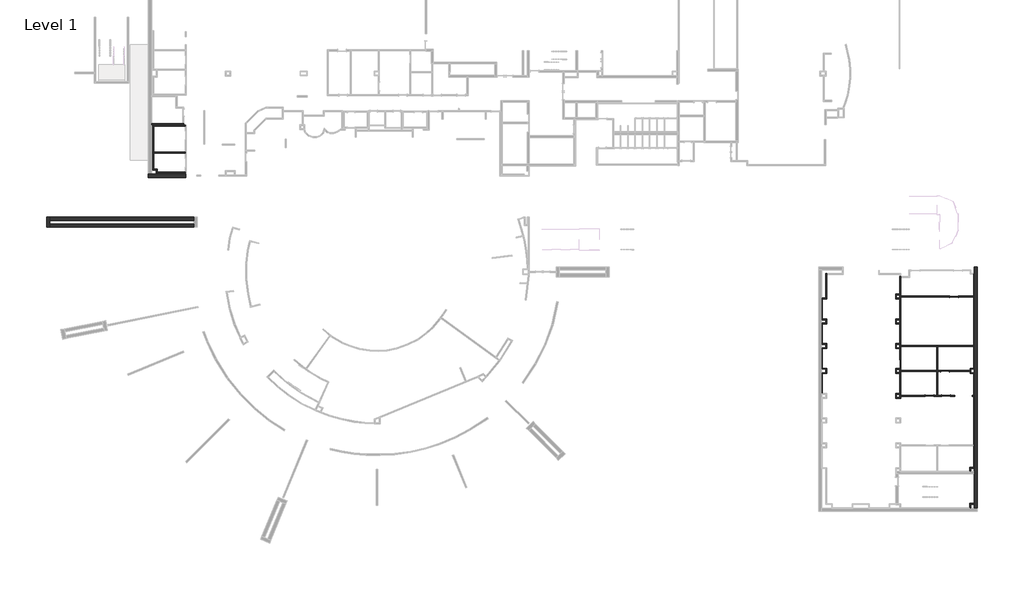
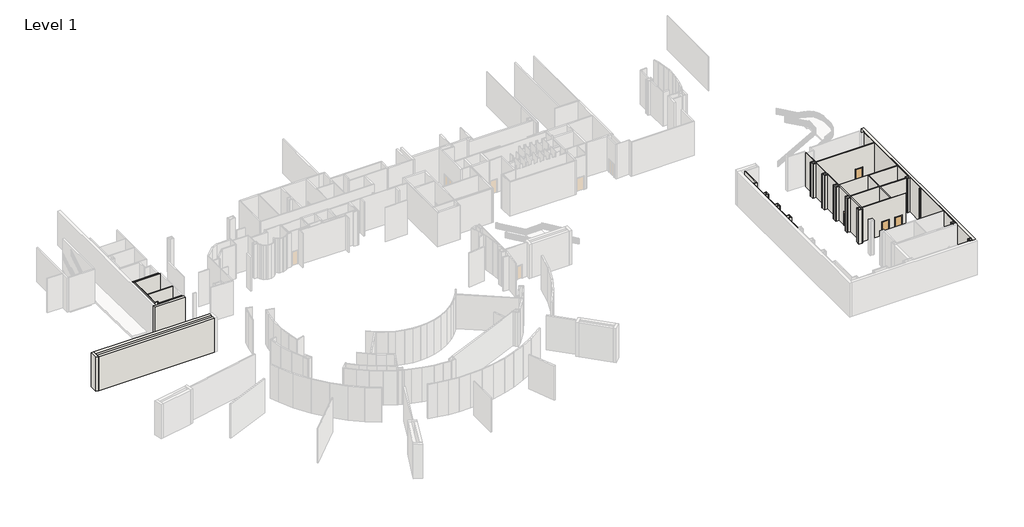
# One storey, part 3 of 10: 60 walls, 5 doors.
"""IFC4 building model written with IfcOpenShell, lengths in millimetres."""

from ifc_helpers import new_model, si_unit, frame, origin, origin_with_axes, place, context, project, spatial, polyline, outline, extrude, faceted_brep, transform, mapped, element, save
from components import door_f5ce0651, door_55d8558a

model = new_model("IFC4")

# Units and contexts
model_context = context("Model", 3, world=origin())
ifc_project = project(units=[si_unit("LENGTHUNIT", "METRE", prefix="MILLI")], contexts=[model_context])

# Site, building, storey
site = spatial("IfcSite", under=ifc_project)
building = spatial("IfcBuilding", under=site)
storey = spatial("IfcBuildingStorey", under=building, Name="Level 1", Elevation=0.0)

# Doors
placement = place(None, origin())
door_shape = door_f5ce0651(model_context)
element("IfcDoor", 1, ObjectType="Single-Flush : 36\" x 84\"", at=placement, inside=storey, context=model_context, shape_type="MappedRepresentation", body=[
    mapped(door_shape, transform((93891.8099216, -11090.5763082, 0.0), x_axis=(-1.0, 0.0, 0.0), y_axis=(0.0, -1.0, 0.0), z_axis=(0.0, 0.0, 1.0))),
])
element("IfcDoor", 2, ObjectType="Single-Flush : 36\" x 84\"", at=placement, inside=storey, context=model_context, shape_type="MappedRepresentation", body=[
    mapped(door_shape, transform((94018.8099216, -14138.5763082, 0.0), x_axis=(-1.0, 0.0, 0.0), y_axis=(0.0, -1.0, 0.0), z_axis=(0.0, 0.0, 1.0))),
])
element("IfcDoor", 3, ObjectType="Single-Flush : 36\" x 84\"", at=placement, inside=storey, context=model_context, shape_type="MappedRepresentation", body=[
    mapped(door_shape, transform((95009.4099216, -1946.5763082, 0.0), x_axis=(1.0, 0.0, 0.0), y_axis=(0.0, 1.0, 0.0), z_axis=(0.0, 0.0, 1.0))),
])
door_2_shape = door_55d8558a(model_context)
element("IfcDoor", 4, ObjectType="Single-Flush : 36\" x 84\"", at=placement, inside=storey, context=model_context, shape_type="MappedRepresentation", body=[
    mapped(door_2_shape, transform((92012.2099216, -14138.5763082, 0.0), x_axis=(1.0, 0.0, 0.0), y_axis=(0.0, 1.0, 0.0), z_axis=(0.0, 0.0, 1.0))),
])
element("IfcDoor", 5, ObjectType="Single-Flush : 36\" x 84\"", at=placement, inside=storey, context=model_context, shape_type="MappedRepresentation", body=[
    mapped(door_2_shape, transform((88405.4099216, -10247.8678081, 0.0), x_axis=(0.0, -1.0, 0.0), y_axis=(1.0, 0.0, 0.0), z_axis=(0.0, 0.0, 1.0))),
])

# Walls
element("IfcWall", 6, ObjectType="N2A/B", at=placement, inside=storey, context=model_context, shape_type="Brep", body=[
    faceted_brep([(93510.8099216, -14076.6638082, 2133.6), (93510.8099216, -14076.6638082, 0.0), (92988.5224216, -14076.6638082, 0.0), (92864.6974216, -14076.6638082, 0.0), (92520.2099216, -14076.6638082, 0.0), (92520.2099216, -14076.6638082, 2133.6), (91504.2099216, -14076.6638082, 2133.6), (91504.2099216, -14076.6638082, 0.0), (88467.3224216, -14076.6638082, 0.0), (88459.3849216, -14076.6638082, 0.0), (88459.3849216, -14076.6638082, 5486.4), (88467.3224216, -14076.6638082, 5486.4), (92864.6974216, -14076.6638082, 5486.4), (92988.5224216, -14076.6638082, 5486.4), (95111.0099216, -14076.6638082, 5486.4), (95111.0099216, -14076.6638082, 0.0), (94526.8099216, -14076.6638082, 0.0), (94526.8099216, -14076.6638082, 2133.6), (92520.2099216, -14200.4888082, 0.0), (93510.8099216, -14200.4888082, 0.0), (93510.8099216, -14200.4888082, 2133.6), (94526.8099216, -14200.4888082, 2133.6), (94526.8099216, -14200.4888082, 0.0), (95111.0099216, -14200.4888082, 0.0), (95111.0099216, -14200.4888082, 5486.4), (88459.3849216, -14200.4888082, 5486.4), (88459.3849216, -14200.4888082, 0.0), (91504.2099216, -14200.4888082, 0.0), (91504.2099216, -14200.4888082, 2133.6), (92520.2099216, -14200.4888082, 2133.6)], [[[0, 1, 2, 3, 4, 5, 6, 7, 8, 9, 10, 11, 12, 13, 14, 15, 16, 17]], [[18, 19, 20, 21, 22, 23, 24, 25, 26, 27, 28, 29]], [[4, 3, 2, 1, 19, 18]], [[27, 26, 9, 8, 7]], [[16, 15, 23, 22]], [[14, 13, 12, 11, 10, 25, 24]], [[15, 14, 24, 23]], [[10, 9, 26, 25]], [[5, 4, 18, 29]], [[6, 5, 29, 28]], [[7, 6, 28, 27]], [[20, 19, 1, 0]], [[21, 20, 0, 17]], [[22, 21, 17, 16]]]),
])
element("IfcWall", 7, ObjectType="N2A/B", at=placement, inside=storey, context=model_context, shape_type="Brep", body=[
    faceted_brep([(88467.3224216, -14076.6638082, 0.0), (88467.3224216, -11152.4888082, 0.0), (88467.3224216, -11028.6638082, 0.0), (88467.3224216, -10755.8678081, 0.0), (88467.3224216, -10755.8678081, 2133.6), (88467.3224216, -9739.8678081, 2133.6), (88467.3224216, -9739.8678081, 0.0), (88467.3224216, -8104.4888082, 0.0), (88467.3224216, -7980.6638082, 0.0), (88467.3224216, -2008.4888082, 0.0), (88467.3224216, -1884.6638082, 0.0), (88467.3224216, 387.0486918, 0.0), (88467.3224216, 494.9986918, 0.0), (88467.3224216, 494.9986918, 5486.4), (88467.3224216, 387.0486918, 5486.4), (88467.3224216, -1884.6638082, 5486.4), (88467.3224216, -2008.4888082, 5486.4), (88467.3224216, -7980.6638082, 5486.4), (88467.3224216, -8104.4888082, 5486.4), (88467.3224216, -11028.6638082, 5486.4), (88467.3224216, -11152.4888082, 5486.4), (88467.3224216, -14076.6638082, 5486.4), (88343.4974216, -10755.8678081, 2133.6), (88343.4974216, -10755.8678081, 0.0), (88343.4974216, -10803.4928081, 0.0), (88343.4974216, -10911.4428081, 0.0), (88343.4974216, -11269.7098081, 0.0), (88343.4974216, -11377.6598081, 0.0), (88343.4974216, -13833.7763082, 0.0), (88343.4974216, -13941.7263082, 0.0), (88343.4974216, -14076.6638082, 0.0), (88343.4974216, -14076.6638082, 5486.4), (88343.4974216, -13941.7263082, 5486.4), (88343.4974216, -13833.7763082, 5486.4), (88343.4974216, -11377.6598081, 5486.4), (88343.4974216, -11269.7098081, 5486.4), (88343.4974216, -10911.4428081, 5486.4), (88343.4974216, -10803.4928081, 5486.4), (88343.4974216, -8347.3763082, 5486.4), (88343.4974216, -8239.4263082, 5486.4), (88343.4974216, -7845.7263082, 5486.4), (88343.4974216, -7737.7763082, 5486.4), (88343.4974216, -5299.3763082, 5486.4), (88343.4974216, -5191.4263082, 5486.4), (88343.4974216, -4797.7263082, 5486.4), (88343.4974216, -4689.7763082, 5486.4), (88343.4974216, -2251.3763082, 5486.4), (88343.4974216, -2143.4263082, 5486.4), (88343.4974216, -1749.7263082, 5486.4), (88343.4974216, -1641.7763082, 5486.4), (88343.4974216, 494.9986918, 5486.4), (88343.4974216, 494.9986918, 0.0), (88343.4974216, -1641.7763082, 0.0), (88343.4974216, -1749.7263082, 0.0), (88343.4974216, -2143.4263082, 0.0), (88343.4974216, -2251.3763082, 0.0), (88343.4974216, -4689.7763082, 0.0), (88343.4974216, -4797.7263082, 0.0), (88343.4974216, -5191.4263082, 0.0), (88343.4974216, -5299.3763082, 0.0), (88343.4974216, -7737.7763082, 0.0), (88343.4974216, -7845.7263082, 0.0), (88343.4974216, -8239.4263082, 0.0), (88343.4974216, -8347.3763082, 0.0), (88343.4974216, -9739.8678081, 0.0), (88343.4974216, -9739.8678081, 2133.6), (88459.3849216, -14076.6638082, 0.0), (88351.4349216, -14076.6638082, 0.0), (88351.4349216, 494.9986918, 0.0), (88459.3849216, 494.9986918, 0.0), (88459.3849216, 494.9986918, 5486.4), (88351.4349216, 494.9986918, 5486.4), (88351.4349216, -14076.6638082, 5486.4), (88459.3849216, -14076.6638082, 5486.4)], [[[0, 1, 2, 3, 4, 5, 6, 7, 8, 9, 10, 11, 12, 13, 14, 15, 16, 17, 18, 19, 20, 21]], [[22, 23, 24, 25, 26, 27, 28, 29, 30, 31, 32, 33, 34, 35, 36, 37, 38, 39, 40, 41, 42, 43, 44, 45, 46, 47, 48, 49, 50, 51, 52, 53, 54, 55, 56, 57, 58, 59, 60, 61, 62, 63, 64, 65]], [[30, 29, 28, 27, 26, 25, 24, 23, 3, 2, 1, 0, 66, 67]], [[64, 63, 62, 61, 60, 59, 58, 57, 56, 55, 54, 53, 52, 51, 68, 69, 12, 11, 10, 9, 8, 7, 6]], [[21, 20, 19, 18, 17, 16, 15, 14, 13, 70, 71, 50, 49, 48, 47, 46, 45, 44, 43, 42, 41, 40, 39, 38, 37, 36, 35, 34, 33, 32, 31, 72, 73]], [[13, 12, 69, 68, 51, 50, 71, 70]], [[0, 21, 73, 72, 31, 30, 67, 66]], [[4, 3, 23, 22]], [[5, 4, 22, 65]], [[6, 5, 65, 64]]]),
])
element("IfcWall", 8, ObjectType="N2A/B", at=placement, inside=storey, context=model_context, shape_type="Brep", body=[
    faceted_brep([(88467.3224216, -8104.4888082, 0.0), (92864.6974216, -8104.4888082, 0.0), (92988.5224216, -8104.4888082, 0.0), (97419.2349216, -8104.4888082, 0.0), (97419.2349216, -8104.4888082, 5486.4), (92988.5224216, -8104.4888082, 5486.4), (92864.6974216, -8104.4888082, 5486.4), (88467.3224216, -8104.4888082, 5486.4), (88467.3224216, -7980.6638082, 0.0), (88467.3224216, -7980.6638082, 5486.4), (97419.2349216, -7980.6638082, 5486.4), (97419.2349216, -7980.6638082, 0.0)], [[[0, 1, 2, 3, 4, 5, 6, 7]], [[8, 9, 10, 11]], [[3, 2, 1, 0, 8, 11]], [[7, 6, 5, 4, 10, 9]], [[0, 7, 9, 8]], [[4, 3, 11, 10]]]),
])
element("IfcWall", 9, ObjectType="N2A/B", at=placement, inside=storey, context=model_context, shape_type="Brep", body=[
    faceted_brep([(92864.6974216, -8104.4888082, 0.0), (92864.6974216, -11028.6638082, 0.0), (92864.6974216, -11152.4888082, 0.0), (92864.6974216, -14076.6638082, 0.0), (92864.6974216, -14076.6638082, 5486.4), (92864.6974216, -11152.4888082, 5486.4), (92864.6974216, -11028.6638082, 5486.4), (92864.6974216, -8104.4888082, 5486.4), (92988.5224216, -8104.4888082, 0.0), (92988.5224216, -8104.4888082, 5486.4), (92988.5224216, -11028.6638082, 5486.4), (92988.5224216, -11152.4888082, 5486.4), (92988.5224216, -14076.6638082, 5486.4), (92988.5224216, -14076.6638082, 0.0), (92988.5224216, -11152.4888082, 0.0), (92988.5224216, -11028.6638082, 0.0)], [[[0, 1, 2, 3, 4, 5, 6, 7]], [[8, 9, 10, 11, 12, 13, 14, 15]], [[3, 2, 1, 0, 8, 15, 14, 13]], [[7, 6, 5, 4, 12, 11, 10, 9]], [[4, 3, 13, 12]], [[0, 7, 9, 8]]]),
])
element("IfcWall", 10, ObjectType="N2A/B", at=placement, inside=storey, context=model_context, shape_type="SweptSolid", body=[
    extrude(outline(polyline([(0.0, 96939.8099216), (5486.4, 96939.8099216), (5486.4, 92988.5224216), (0.0, 92988.5224216), (0.0, 93383.8099216), (2133.6, 93383.8099216), (2133.6, 94399.8099216), (0.0, 94399.8099216), (0.0, 96939.8099216)])), frame((0.0, -11152.4888082, 0.0), z_axis=(0.0, 1.0, 0.0), x_axis=(0.0, 0.0, 1.0)), (0.0, 0.0, 1.0), 123.825),
    extrude(outline(polyline([(88467.3224216, -11152.4888082), (88467.3224216, -11028.6638082), (92864.6974216, -11028.6638082), (92864.6974216, -11152.4888082), (88467.3224216, -11152.4888082)])), origin_with_axes(), (0.0, 0.0, 1.0), 5486.4),
])
element("IfcWall", 11, ObjectType="N2A/B", at=placement, inside=storey, context=model_context, shape_type="SweptSolid", body=[
    extrude(outline(polyline([(2133.6, 95517.4099216), (0.0, 95517.4099216), (0.0, 97419.2349216), (5486.4, 97419.2349216), (5486.4, 88467.3224216), (0.0, 88467.3224216), (0.0, 94501.4099216), (2133.6, 94501.4099216), (2133.6, 95517.4099216)])), frame((0.0, -2008.4888082, 0.0), z_axis=(0.0, 1.0, 0.0), x_axis=(0.0, 0.0, 1.0)), (0.0, 0.0, 1.0), 123.825),
])
element("IfcWall", 12, ObjectType="N3A/B", at=placement, inside=storey, context=model_context, shape_type="Brep", body=[
    faceted_brep([(-3529.8900784, 19177.6074093, 0.0), (445.2100485, 19177.6074093, 0.0), (445.2100485, 19177.6074093, 5486.4), (-3529.8900784, 19177.6074093, 5486.4), (-3529.8900784, 19333.1824093, 0.0), (-3529.8900784, 19333.1824093, 5486.4), (289.6350485, 19333.1824093, 5486.4), (445.2100485, 19333.1824093, 5486.4), (445.2100485, 19333.1824093, 0.0), (289.6350485, 19333.1824093, 0.0)], [[[0, 1, 2, 3]], [[4, 5, 6, 7, 8, 9]], [[1, 0, 4, 9, 8]], [[3, 2, 7, 6, 5]], [[2, 1, 8, 7]], [[0, 3, 5, 4]]]),
])
element("IfcWall", 13, ObjectType="N2A/B", at=placement, inside=storey, context=model_context, shape_type="Brep", body=[
    faceted_brep([(97482.7349216, -14076.6638082, 0.0), (97476.3849216, -14076.6638082, 0.0), (97419.2349216, -14076.6638082, 0.0), (97254.1349216, -14076.6638082, 0.0), (97254.1349216, -14076.6638082, 5486.4), (97419.2349216, -14076.6638082, 5486.4), (97476.3849216, -14076.6638082, 5486.4), (97482.7349216, -14076.6638082, 5486.4), (97482.7349216, -14200.4888082, 0.0), (97482.7349216, -14200.4888082, 5486.4), (97476.3849216, -14200.4888082, 5486.4), (97419.2349216, -14200.4888082, 5486.4), (97254.1349216, -14200.4888082, 5486.4), (97254.1349216, -14200.4888082, 0.0), (97419.2349216, -14200.4888082, 0.0), (97476.3849216, -14200.4888082, 0.0)], [[[0, 1, 2, 3, 4, 5, 6, 7]], [[8, 9, 10, 11, 12, 13, 14, 15]], [[3, 2, 1, 0, 8, 15, 14, 13]], [[4, 3, 13, 12]], [[7, 6, 5, 4, 12, 11, 10, 9]], [[0, 7, 9, 8]]]),
])
element("IfcWall", 14, ObjectType="F1A", at=placement, inside=storey, context=model_context, shape_type="Brep", body=[
    faceted_brep([(97419.2349216, 810.9111918, 0.0), (97419.2349216, -1884.6638082, 0.0), (97419.2349216, -2008.4888082, 0.0), (97419.2349216, -7980.6638082, 0.0), (97419.2349216, -8104.4888082, 0.0), (97419.2349216, -10796.8888082, 0.0), (97419.2349216, -10854.0388082, 0.0), (97419.2349216, -10854.0388082, 5486.4), (97419.2349216, -10796.8888082, 5486.4), (97419.2349216, -8104.4888082, 5486.4), (97419.2349216, -7980.6638082, 5486.4), (97419.2349216, -2008.4888082, 5486.4), (97419.2349216, -1884.6638082, 5486.4), (97419.2349216, 810.9111918, 5486.4), (97476.3849216, 810.9111918, 0.0), (97476.3849216, 810.9111918, 5486.4), (97476.3849216, -10854.0388082, 5486.4), (97476.3849216, -10854.0388082, 0.0)], [[[0, 1, 2, 3, 4, 5, 6, 7, 8, 9, 10, 11, 12, 13]], [[14, 15, 16, 17]], [[6, 5, 4, 3, 2, 1, 0, 14, 17]], [[13, 12, 11, 10, 9, 8, 7, 16, 15]], [[7, 6, 17, 16]], [[0, 13, 15, 14]]]),
])
element("IfcWall", 15, ObjectType="F1A", at=placement, inside=storey, context=model_context, shape_type="Brep", body=[
    faceted_brep([(97419.2349216, -10796.8888082, 0.0), (96985.8474216, -10796.8888082, 0.0), (96985.8474216, -10796.8888082, 5486.4), (97419.2349216, -10796.8888082, 5486.4), (97419.2349216, -10854.0388082, 0.0), (97419.2349216, -10854.0388082, 5486.4), (97042.9974216, -10854.0388082, 5486.4), (96985.8474216, -10854.0388082, 5486.4), (96985.8474216, -10854.0388082, 0.0), (97042.9974216, -10854.0388082, 0.0)], [[[0, 1, 2, 3]], [[4, 5, 6, 7, 8, 9]], [[1, 0, 4, 9, 8]], [[3, 2, 7, 6, 5]], [[2, 1, 8, 7]], [[0, 3, 5, 4]]]),
])
element("IfcWall", 16, ObjectType="F1A", at=placement, inside=storey, context=model_context, shape_type="Brep", body=[
    faceted_brep([(96985.8474216, -10854.0388082, 0.0), (96985.8474216, -11384.2638082, 0.0), (96985.8474216, -11384.2638082, 5486.4), (96985.8474216, -10854.0388082, 5486.4), (97042.9974216, -10854.0388082, 0.0), (97042.9974216, -10854.0388082, 5486.4), (97042.9974216, -11327.1138082, 5486.4), (97042.9974216, -11384.2638082, 5486.4), (97042.9974216, -11384.2638082, 0.0), (97042.9974216, -11327.1138082, 0.0)], [[[0, 1, 2, 3]], [[4, 5, 6, 7, 8, 9]], [[1, 0, 4, 9, 8]], [[3, 2, 7, 6, 5]], [[2, 1, 8, 7]], [[0, 3, 5, 4]]]),
])
element("IfcWall", 17, ObjectType="F1A", at=placement, inside=storey, context=model_context, shape_type="Brep", body=[
    faceted_brep([(97042.9974216, -11384.2638082, 0.0), (97419.2349216, -11384.2638082, 0.0), (97476.3849216, -11384.2638082, 0.0), (97476.3849216, -11384.2638082, 5486.4), (97419.2349216, -11384.2638082, 5486.4), (97042.9974216, -11384.2638082, 5486.4), (97042.9974216, -11327.1138082, 0.0), (97042.9974216, -11327.1138082, 5486.4), (97476.3849216, -11327.1138082, 5486.4), (97476.3849216, -11327.1138082, 0.0)], [[[0, 1, 2, 3, 4, 5]], [[6, 7, 8, 9]], [[2, 1, 0, 6, 9]], [[5, 4, 3, 8, 7]], [[3, 2, 9, 8]], [[0, 5, 7, 6]]]),
])
element("IfcWall", 18, ObjectType="F1A", at=placement, inside=storey, context=model_context, shape_type="SweptSolid", body=[
    extrude(outline(polyline([(97419.2349216, -14076.6638082), (97419.2349216, -11384.2638082), (97476.3849216, -11384.2638082), (97476.3849216, -14076.6638082), (97419.2349216, -14076.6638082)])), origin_with_axes(), (0.0, 0.0, 1.0), 5486.4),
])
element("IfcWall", 19, ObjectType="F1A", at=placement, inside=storey, context=model_context, shape_type="Brep", body=[
    faceted_brep([(97419.2349216, -14200.4888082, 0.0), (97419.2349216, -20172.6638082, 0.0), (97419.2349216, -20296.4888082, 0.0), (97419.2349216, -22963.4888082, 0.0), (97419.2349216, -23071.4388082, 0.0), (97419.2349216, -23071.4388082, 5486.4), (97419.2349216, -22963.4888082, 5486.4), (97419.2349216, -20296.4888082, 5486.4), (97419.2349216, -20172.6638082, 5486.4), (97419.2349216, -14200.4888082, 5486.4), (97476.3849216, -14200.4888082, 0.0), (97476.3849216, -14200.4888082, 5486.4), (97476.3849216, -23071.4388082, 5486.4), (97476.3849216, -23071.4388082, 0.0)], [[[0, 1, 2, 3, 4, 5, 6, 7, 8, 9]], [[10, 11, 12, 13]], [[4, 3, 2, 1, 0, 10, 13]], [[9, 8, 7, 6, 5, 12, 11]], [[5, 4, 13, 12]], [[0, 9, 11, 10]]]),
])
element("IfcWall", 20, ObjectType="F1A", at=placement, inside=storey, context=model_context, shape_type="Brep", body=[
    faceted_brep([(78794.6849216, -11395.3763082, 0.0), (78794.6849216, -13941.7263082, 0.0), (78794.6849216, -13941.7263082, 5486.4), (78794.6849216, -11395.3763082, 5486.4), (78851.8349216, -11395.3763082, 0.0), (78851.8349216, -11395.3763082, 5486.4), (78851.8349216, -13833.7763082, 5486.4), (78851.8349216, -13941.7263082, 5486.4), (78851.8349216, -13941.7263082, 0.0), (78851.8349216, -13833.7763082, 0.0)], [[[0, 1, 2, 3]], [[4, 5, 6, 7, 8, 9]], [[1, 0, 4, 9, 8]], [[3, 2, 7, 6, 5]], [[2, 1, 8, 7]], [[0, 3, 5, 4]]]),
])
element("IfcWall", 21, ObjectType="F1A", at=placement, inside=storey, context=model_context, shape_type="SweptSolid", body=[
    extrude(outline(polyline([(78851.8349216, -8347.3763082), (78851.8349216, -10785.7763082), (78794.6849216, -10785.7763082), (78794.6849216, -8347.3763082), (78851.8349216, -8347.3763082)])), origin_with_axes(), (0.0, 0.0, 1.0), 5486.4),
])
element("IfcWall", 22, ObjectType="F1A", at=placement, inside=storey, context=model_context, shape_type="Brep", body=[
    faceted_brep([(78794.6849216, -5191.4263082, 0.0), (78794.6849216, -7737.7763082, 0.0), (78794.6849216, -7737.7763082, 5486.4), (78794.6849216, -5191.4263082, 5486.4), (78851.8349216, -5191.4263082, 0.0), (78851.8349216, -5191.4263082, 5486.4), (78851.8349216, -5299.3763082, 5486.4), (78851.8349216, -7737.7763082, 5486.4), (78851.8349216, -7737.7763082, 0.0), (78851.8349216, -5299.3763082, 0.0)], [[[0, 1, 2, 3]], [[4, 5, 6, 7, 8, 9]], [[1, 0, 4, 9, 8]], [[3, 2, 7, 6, 5]], [[0, 3, 5, 4]], [[2, 1, 8, 7]]]),
])
element("IfcWall", 23, ObjectType="F1A", at=placement, inside=storey, context=model_context, shape_type="Brep", body=[
    faceted_brep([(78794.6849216, -2143.4263082, 0.0), (78794.6849216, -4797.7263082, 0.0), (78794.6849216, -4797.7263082, 5486.4), (78794.6849216, -2143.4263082, 5486.4), (78851.8349216, -2143.4263082, 0.0), (78851.8349216, -2143.4263082, 5486.4), (78851.8349216, -2251.3763082, 5486.4), (78851.8349216, -4689.7763082, 5486.4), (78851.8349216, -4797.7263082, 5486.4), (78851.8349216, -4797.7263082, 0.0), (78851.8349216, -4689.7763082, 0.0), (78851.8349216, -2251.3763082, 0.0)], [[[0, 1, 2, 3]], [[4, 5, 6, 7, 8, 9, 10, 11]], [[1, 0, 4, 11, 10, 9]], [[3, 2, 8, 7, 6, 5]], [[2, 1, 9, 8]], [[0, 3, 5, 4]]]),
])
element("IfcWall", 24, ObjectType="F1B", at=placement, inside=storey, context=model_context, shape_type="Brep", body=[
    faceted_brep([(78794.6849216, -11395.3763082, 0.0), (78851.8349216, -11395.3763082, 0.0), (79359.8349216, -11395.3763082, 0.0), (79359.8349216, -11395.3763082, 5486.4), (78851.8349216, -11395.3763082, 5486.4), (78794.6849216, -11395.3763082, 5486.4), (78794.6849216, -11316.0013082, 0.0), (78794.6849216, -11316.0013082, 5486.4), (79280.4599216, -11316.0013082, 5486.4), (79359.8349216, -11316.0013082, 5486.4), (79359.8349216, -11316.0013082, 0.0), (79280.4599216, -11316.0013082, 0.0)], [[[0, 1, 2, 3, 4, 5]], [[6, 7, 8, 9, 10, 11]], [[2, 1, 0, 6, 11, 10]], [[5, 4, 3, 9, 8, 7]], [[3, 2, 10, 9]], [[0, 5, 7, 6]]]),
])
element("IfcWall", 25, ObjectType="F1B", at=placement, inside=storey, context=model_context, shape_type="Brep", body=[
    faceted_brep([(79359.8349216, -11316.0013082, 0.0), (79359.8349216, -10785.7763082, 0.0), (79359.8349216, -10785.7763082, 5486.4), (79359.8349216, -11316.0013082, 5486.4), (79280.4599216, -11316.0013082, 0.0), (79280.4599216, -11316.0013082, 5486.4), (79280.4599216, -10865.1513082, 5486.4), (79280.4599216, -10785.7763082, 5486.4), (79280.4599216, -10785.7763082, 0.0), (79280.4599216, -10865.1513082, 0.0)], [[[0, 1, 2, 3]], [[4, 5, 6, 7, 8, 9]], [[1, 0, 4, 9, 8]], [[3, 2, 7, 6, 5]], [[2, 1, 8, 7]], [[0, 3, 5, 4]]]),
])
element("IfcWall", 26, ObjectType="F1B", at=placement, inside=storey, context=model_context, shape_type="Brep", body=[
    faceted_brep([(79280.4599216, -10785.7763082, 0.0), (78851.8349216, -10785.7763082, 0.0), (78794.6849216, -10785.7763082, 0.0), (78794.6849216, -10785.7763082, 5486.4), (78851.8349216, -10785.7763082, 5486.4), (79280.4599216, -10785.7763082, 5486.4), (79280.4599216, -10865.1513082, 0.0), (79280.4599216, -10865.1513082, 5486.4), (78794.6849216, -10865.1513082, 5486.4), (78794.6849216, -10865.1513082, 0.0)], [[[0, 1, 2, 3, 4, 5]], [[6, 7, 8, 9]], [[2, 1, 0, 6, 9]], [[5, 4, 3, 8, 7]], [[3, 2, 9, 8]], [[0, 5, 7, 6]]]),
])
element("IfcWall", 27, ObjectType="F1C", at=placement, inside=storey, context=model_context, shape_type="Brep", body=[
    faceted_brep([(97419.2349216, -22963.4888082, 0.0), (96960.4474216, -22963.4888082, 0.0), (96960.4474216, -22963.4888082, 5486.4), (97419.2349216, -22963.4888082, 5486.4), (97419.2349216, -23071.4388082, 0.0), (97419.2349216, -23071.4388082, 5486.4), (97068.3974216, -23071.4388082, 5486.4), (96960.4474216, -23071.4388082, 5486.4), (96960.4474216, -23071.4388082, 0.0), (97068.3974216, -23071.4388082, 0.0)], [[[0, 1, 2, 3]], [[4, 5, 6, 7, 8, 9]], [[1, 0, 4, 9, 8]], [[3, 2, 7, 6, 5]], [[2, 1, 8, 7]], [[0, 3, 5, 4]]]),
])
element("IfcWall", 28, ObjectType="F1C", at=placement, inside=storey, context=model_context, shape_type="Brep", body=[
    faceted_brep([(96960.4474216, -23071.4388082, 0.0), (96960.4474216, -23436.2463082, 0.0), (96960.4474216, -23493.3963082, 0.0), (96960.4474216, -23493.3963082, 5486.4), (96960.4474216, -23436.2463082, 5486.4), (96960.4474216, -23071.4388082, 5486.4), (97068.3974216, -23071.4388082, 0.0), (97068.3974216, -23071.4388082, 5486.4), (97068.3974216, -23493.3963082, 5486.4), (97068.3974216, -23493.3963082, 0.0)], [[[0, 1, 2, 3, 4, 5]], [[6, 7, 8, 9]], [[2, 1, 0, 6, 9]], [[5, 4, 3, 8, 7]], [[3, 2, 9, 8]], [[0, 5, 7, 6]]]),
])
element("IfcWall", 29, ObjectType="F1C", at=placement, inside=storey, context=model_context, shape_type="Brep", body=[
    faceted_brep([(78794.6849216, -7845.7263082, 0.0), (79251.8849216, -7845.7263082, 0.0), (79359.8349216, -7845.7263082, 0.0), (79359.8349216, -7845.7263082, 5486.4), (79251.8849216, -7845.7263082, 5486.4), (78794.6849216, -7845.7263082, 5486.4), (78794.6849216, -7737.7763082, 0.0), (78794.6849216, -7737.7763082, 5486.4), (78851.8349216, -7737.7763082, 5486.4), (79359.8349216, -7737.7763082, 5486.4), (79359.8349216, -7737.7763082, 0.0), (78851.8349216, -7737.7763082, 0.0)], [[[0, 1, 2, 3, 4, 5]], [[6, 7, 8, 9, 10, 11]], [[2, 1, 0, 6, 11, 10]], [[5, 4, 3, 9, 8, 7]], [[3, 2, 10, 9]], [[0, 5, 7, 6]]]),
])
element("IfcWall", 30, ObjectType="F1C", at=placement, inside=storey, context=model_context, shape_type="Brep", body=[
    faceted_brep([(79251.8849216, -7845.7263082, 0.0), (79251.8849216, -8239.4263082, 0.0), (79251.8849216, -8347.3763082, 0.0), (79251.8849216, -8347.3763082, 5486.4), (79251.8849216, -8239.4263082, 5486.4), (79251.8849216, -7845.7263082, 5486.4), (79359.8349216, -7845.7263082, 0.0), (79359.8349216, -7845.7263082, 5486.4), (79359.8349216, -8347.3763082, 5486.4), (79359.8349216, -8347.3763082, 0.0)], [[[0, 1, 2, 3, 4, 5]], [[6, 7, 8, 9]], [[2, 1, 0, 6, 9]], [[5, 4, 3, 8, 7]], [[3, 2, 9, 8]], [[0, 5, 7, 6]]]),
])
element("IfcWall", 31, ObjectType="F1C", at=placement, inside=storey, context=model_context, shape_type="Brep", body=[
    faceted_brep([(79251.8849216, -8239.4263082, 0.0), (78794.6849216, -8239.4263082, 0.0), (78794.6849216, -8239.4263082, 5486.4), (79251.8849216, -8239.4263082, 5486.4), (79251.8849216, -8347.3763082, 0.0), (79251.8849216, -8347.3763082, 5486.4), (78851.8349216, -8347.3763082, 5486.4), (78794.6849216, -8347.3763082, 5486.4), (78794.6849216, -8347.3763082, 0.0), (78851.8349216, -8347.3763082, 0.0)], [[[0, 1, 2, 3]], [[4, 5, 6, 7, 8, 9]], [[1, 0, 4, 9, 8]], [[3, 2, 7, 6, 5]], [[2, 1, 8, 7]], [[0, 3, 5, 4]]]),
])
element("IfcWall", 32, ObjectType="F1C", at=placement, inside=storey, context=model_context, shape_type="Brep", body=[
    faceted_brep([(78851.8349216, -4797.7263082, 0.0), (79251.8849216, -4797.7263082, 0.0), (79359.8349216, -4797.7263082, 0.0), (79359.8349216, -4797.7263082, 5486.4), (79251.8849216, -4797.7263082, 5486.4), (78851.8349216, -4797.7263082, 5486.4), (78851.8349216, -4689.7763082, 0.0), (78851.8349216, -4689.7763082, 5486.4), (79359.8349216, -4689.7763082, 5486.4), (79359.8349216, -4689.7763082, 0.0)], [[[0, 1, 2, 3, 4, 5]], [[6, 7, 8, 9]], [[2, 1, 0, 6, 9]], [[5, 4, 3, 8, 7]], [[3, 2, 9, 8]], [[0, 5, 7, 6]]]),
])
element("IfcWall", 33, ObjectType="F1C", at=placement, inside=storey, context=model_context, shape_type="Brep", body=[
    faceted_brep([(79251.8849216, -4797.7263082, 0.0), (79251.8849216, -5191.4263082, 0.0), (79251.8849216, -5299.3763082, 0.0), (79251.8849216, -5299.3763082, 5486.4), (79251.8849216, -5191.4263082, 5486.4), (79251.8849216, -4797.7263082, 5486.4), (79359.8349216, -4797.7263082, 0.0), (79359.8349216, -4797.7263082, 5486.4), (79359.8349216, -5299.3763082, 5486.4), (79359.8349216, -5299.3763082, 0.0)], [[[0, 1, 2, 3, 4, 5]], [[6, 7, 8, 9]], [[2, 1, 0, 6, 9]], [[5, 4, 3, 8, 7]], [[3, 2, 9, 8]], [[0, 5, 7, 6]]]),
])
element("IfcWall", 34, ObjectType="F1C", at=placement, inside=storey, context=model_context, shape_type="SweptSolid", body=[
    extrude(outline(polyline([(78851.8349216, -5191.4263082), (79251.8849216, -5191.4263082), (79251.8849216, -5299.3763082), (78851.8349216, -5299.3763082), (78851.8349216, -5191.4263082)])), origin_with_axes(), (0.0, 0.0, 1.0), 5486.4),
])
element("IfcWall", 35, ObjectType="F1C", at=placement, inside=storey, context=model_context, shape_type="Brep", body=[
    faceted_brep([(78851.8349216, -2251.3763082, 0.0), (79359.8349216, -2251.3763082, 0.0), (79359.8349216, -2251.3763082, 5486.4), (78851.8349216, -2251.3763082, 5486.4), (78851.8349216, -2143.4263082, 0.0), (78851.8349216, -2143.4263082, 5486.4), (79251.8849216, -2143.4263082, 5486.4), (79359.8349216, -2143.4263082, 5486.4), (79359.8349216, -2143.4263082, 0.0), (79251.8849216, -2143.4263082, 0.0)], [[[0, 1, 2, 3]], [[4, 5, 6, 7, 8, 9]], [[1, 0, 4, 9, 8]], [[3, 2, 7, 6, 5]], [[2, 1, 8, 7]], [[0, 3, 5, 4]]]),
])
element("IfcWall", 36, ObjectType="F1C", at=placement, inside=storey, context=model_context, shape_type="Brep", body=[
    faceted_brep([(79359.8349216, -2143.4263082, 0.0), (79359.8349216, 796.6236918, 0.0), (79359.8349216, 904.5736918, 0.0), (79359.8349216, 904.5736918, 5486.4), (79359.8349216, 796.6236918, 5486.4), (79359.8349216, -2143.4263082, 5486.4), (79251.8849216, -2143.4263082, 0.0), (79251.8849216, -2143.4263082, 5486.4), (79251.8849216, 904.5736918, 5486.4), (79251.8849216, 904.5736918, 0.0)], [[[0, 1, 2, 3, 4, 5]], [[6, 7, 8, 9]], [[2, 1, 0, 6, 9]], [[5, 4, 3, 8, 7]], [[3, 2, 9, 8]], [[0, 5, 7, 6]]]),
])
element("IfcWall", 37, ObjectType="F1C", at=placement, inside=storey, context=model_context, shape_type="Brep", body=[
    faceted_brep([(97482.7349216, -27348.1638082, 0.0), (96960.4474216, -27348.1638082, 0.0), (96960.4474216, -27348.1638082, 5486.4), (97482.7349216, -27348.1638082, 5486.4), (97482.7349216, -27456.1138082, 0.0), (97482.7349216, -27456.1138082, 5486.4), (97068.3974216, -27456.1138082, 5486.4), (96960.4474216, -27456.1138082, 5486.4), (96960.4474216, -27456.1138082, 0.0), (97068.3974216, -27456.1138082, 0.0)], [[[0, 1, 2, 3]], [[4, 5, 6, 7, 8, 9]], [[1, 0, 4, 9, 8]], [[3, 2, 7, 6, 5]], [[2, 1, 8, 7]], [[0, 3, 5, 4]]]),
])
element("IfcWall", 38, ObjectType="F1C", at=placement, inside=storey, context=model_context, shape_type="Brep", body=[
    faceted_brep([(96960.4474216, -27456.1138082, 0.0), (96960.4474216, -27892.6763082, 0.0), (96960.4474216, -27949.8263082, 0.0), (96960.4474216, -27956.1763082, 0.0), (96960.4474216, -27956.1763082, 5486.4), (96960.4474216, -27949.8263082, 5486.4), (96960.4474216, -27892.6763082, 5486.4), (96960.4474216, -27456.1138082, 5486.4), (97068.3974216, -27456.1138082, 0.0), (97068.3974216, -27456.1138082, 5486.4), (97068.3974216, -27956.1763082, 5486.4), (97068.3974216, -27956.1763082, 0.0)], [[[0, 1, 2, 3, 4, 5, 6, 7]], [[8, 9, 10, 11]], [[3, 2, 1, 0, 8, 11]], [[7, 6, 5, 4, 10, 9]], [[0, 7, 9, 8]], [[4, 3, 11, 10]]]),
])
element("IfcWall", 39, ObjectType="F2A", at=placement, inside=storey, context=model_context, shape_type="Brep", body=[
    faceted_brep([(88351.4349216, -14076.6638082, 0.0), (88351.4349216, -14335.4263082, 0.0), (88351.4349216, -14443.3763082, 0.0), (88351.4349216, -14443.3763082, 5486.4), (88351.4349216, -14335.4263082, 5486.4), (88351.4349216, -14076.6638082, 5486.4), (88459.3849216, -14076.6638082, 0.0), (88459.3849216, -14076.6638082, 5486.4), (88459.3849216, -14200.4888082, 5486.4), (88459.3849216, -14443.3763082, 5486.4), (88459.3849216, -14443.3763082, 0.0), (88459.3849216, -14200.4888082, 0.0)], [[[0, 1, 2, 3, 4, 5]], [[6, 7, 8, 9, 10, 11]], [[2, 1, 0, 6, 11, 10]], [[5, 4, 3, 9, 8, 7]], [[0, 5, 7, 6]], [[3, 2, 10, 9]]]),
])
element("IfcWall", 40, ObjectType="F2A", at=placement, inside=storey, context=model_context, shape_type="Brep", body=[
    faceted_brep([(87830.7349216, -14443.3763082, 0.0), (88351.4349216, -14443.3763082, 0.0), (88351.4349216, -14443.3763082, 5486.4), (87830.7349216, -14443.3763082, 5486.4), (87830.7349216, -14335.4263082, 0.0), (87830.7349216, -14335.4263082, 5486.4), (87938.6849216, -14335.4263082, 5486.4), (88351.4349216, -14335.4263082, 5486.4), (88351.4349216, -14335.4263082, 0.0), (87938.6849216, -14335.4263082, 0.0)], [[[0, 1, 2, 3]], [[4, 5, 6, 7, 8, 9]], [[1, 0, 4, 9, 8]], [[3, 2, 7, 6, 5]], [[0, 3, 5, 4]], [[2, 1, 8, 7]]]),
])
element("IfcWall", 41, ObjectType="F2A", at=placement, inside=storey, context=model_context, shape_type="Brep", body=[
    faceted_brep([(87938.6849216, -14335.4263082, 0.0), (87938.6849216, -13941.7263082, 0.0), (87938.6849216, -13833.7763082, 0.0), (87938.6849216, -13833.7763082, 5486.4), (87938.6849216, -13941.7263082, 5486.4), (87938.6849216, -14335.4263082, 5486.4), (87830.7349216, -14335.4263082, 0.0), (87830.7349216, -14335.4263082, 5486.4), (87830.7349216, -13833.7763082, 5486.4), (87830.7349216, -13833.7763082, 0.0)], [[[0, 1, 2, 3, 4, 5]], [[6, 7, 8, 9]], [[2, 1, 0, 6, 9]], [[5, 4, 3, 8, 7]], [[3, 2, 9, 8]], [[0, 5, 7, 6]]]),
])
element("IfcWall", 42, ObjectType="F2A", at=placement, inside=storey, context=model_context, shape_type="SweptSolid", body=[
    extrude(outline(polyline([(88343.4974216, -13941.7263082), (87938.6849216, -13941.7263082), (87938.6849216, -13833.7763082), (88343.4974216, -13833.7763082), (88343.4974216, -13941.7263082)])), origin_with_axes(), (0.0, 0.0, 1.0), 5486.4),
])
element("IfcWall", 43, ObjectType="F2A", at=placement, inside=storey, context=model_context, shape_type="Brep", body=[
    faceted_brep([(88343.4974216, -10803.4928081, 0.0), (87830.7349216, -10803.4928081, 0.0), (87830.7349216, -10803.4928081, 5486.4), (88343.4974216, -10803.4928081, 5486.4), (88343.4974216, -10911.4428081, 0.0), (88343.4974216, -10911.4428081, 5486.4), (87938.6849216, -10911.4428081, 5486.4), (87830.7349216, -10911.4428081, 5486.4), (87830.7349216, -10911.4428081, 0.0), (87938.6849216, -10911.4428081, 0.0)], [[[0, 1, 2, 3]], [[4, 5, 6, 7, 8, 9]], [[1, 0, 4, 9, 8]], [[3, 2, 7, 6, 5]], [[2, 1, 8, 7]], [[0, 3, 5, 4]]]),
])
element("IfcWall", 44, ObjectType="F2A", at=placement, inside=storey, context=model_context, shape_type="Brep", body=[
    faceted_brep([(87830.7349216, -10911.4428081, 0.0), (87830.7349216, -11377.6598081, 0.0), (87830.7349216, -11377.6598081, 5486.4), (87830.7349216, -10911.4428081, 5486.4), (87938.6849216, -10911.4428081, 0.0), (87938.6849216, -10911.4428081, 5486.4), (87938.6849216, -11269.7098081, 5486.4), (87938.6849216, -11377.6598081, 5486.4), (87938.6849216, -11377.6598081, 0.0), (87938.6849216, -11269.7098081, 0.0)], [[[0, 1, 2, 3]], [[4, 5, 6, 7, 8, 9]], [[1, 0, 4, 9, 8]], [[3, 2, 7, 6, 5]], [[2, 1, 8, 7]], [[0, 3, 5, 4]]]),
])
element("IfcWall", 45, ObjectType="F2A", at=placement, inside=storey, context=model_context, shape_type="SweptSolid", body=[
    extrude(outline(polyline([(88343.4974216, -11377.6598081), (87938.6849216, -11377.6598081), (87938.6849216, -11269.7098081), (88343.4974216, -11269.7098081), (88343.4974216, -11377.6598081)])), origin_with_axes(), (0.0, 0.0, 1.0), 5486.4),
])
element("IfcWall", 46, ObjectType="F2A", at=placement, inside=storey, context=model_context, shape_type="Brep", body=[
    faceted_brep([(88343.4974216, -7737.7763082, 0.0), (87830.7349216, -7737.7763082, 0.0), (87830.7349216, -7737.7763082, 5486.4), (88343.4974216, -7737.7763082, 5486.4), (88343.4974216, -7845.7263082, 0.0), (88343.4974216, -7845.7263082, 5486.4), (87938.6849216, -7845.7263082, 5486.4), (87830.7349216, -7845.7263082, 5486.4), (87830.7349216, -7845.7263082, 0.0), (87938.6849216, -7845.7263082, 0.0)], [[[0, 1, 2, 3]], [[4, 5, 6, 7, 8, 9]], [[1, 0, 4, 9, 8]], [[3, 2, 7, 6, 5]], [[2, 1, 8, 7]], [[0, 3, 5, 4]]]),
])
element("IfcWall", 47, ObjectType="F2A", at=placement, inside=storey, context=model_context, shape_type="Brep", body=[
    faceted_brep([(87830.7349216, -7845.7263082, 0.0), (87830.7349216, -8347.3763082, 0.0), (87830.7349216, -8347.3763082, 5486.4), (87830.7349216, -7845.7263082, 5486.4), (87938.6849216, -7845.7263082, 0.0), (87938.6849216, -7845.7263082, 5486.4), (87938.6849216, -8239.4263082, 5486.4), (87938.6849216, -8347.3763082, 5486.4), (87938.6849216, -8347.3763082, 0.0), (87938.6849216, -8239.4263082, 0.0)], [[[0, 1, 2, 3]], [[4, 5, 6, 7, 8, 9]], [[1, 0, 4, 9, 8]], [[3, 2, 7, 6, 5]], [[2, 1, 8, 7]], [[0, 3, 5, 4]]]),
])
element("IfcWall", 48, ObjectType="F2A", at=placement, inside=storey, context=model_context, shape_type="SweptSolid", body=[
    extrude(outline(polyline([(88343.4974216, -8347.3763082), (87938.6849216, -8347.3763082), (87938.6849216, -8239.4263082), (88343.4974216, -8239.4263082), (88343.4974216, -8347.3763082)])), origin_with_axes(), (0.0, 0.0, 1.0), 5486.4),
])
element("IfcWall", 49, ObjectType="F2A", at=placement, inside=storey, context=model_context, shape_type="Brep", body=[
    faceted_brep([(88343.4974216, -4689.7763082, 0.0), (87830.7349216, -4689.7763082, 0.0), (87830.7349216, -4689.7763082, 5486.4), (88343.4974216, -4689.7763082, 5486.4), (88343.4974216, -4797.7263082, 0.0), (88343.4974216, -4797.7263082, 5486.4), (87938.6849216, -4797.7263082, 5486.4), (87830.7349216, -4797.7263082, 5486.4), (87830.7349216, -4797.7263082, 0.0), (87938.6849216, -4797.7263082, 0.0)], [[[0, 1, 2, 3]], [[4, 5, 6, 7, 8, 9]], [[1, 0, 4, 9, 8]], [[3, 2, 7, 6, 5]], [[2, 1, 8, 7]], [[0, 3, 5, 4]]]),
])
element("IfcWall", 50, ObjectType="F2A", at=placement, inside=storey, context=model_context, shape_type="Brep", body=[
    faceted_brep([(87830.7349216, -4797.7263082, 0.0), (87830.7349216, -5299.3763082, 0.0), (87830.7349216, -5299.3763082, 5486.4), (87830.7349216, -4797.7263082, 5486.4), (87938.6849216, -4797.7263082, 0.0), (87938.6849216, -4797.7263082, 5486.4), (87938.6849216, -5191.4263082, 5486.4), (87938.6849216, -5299.3763082, 5486.4), (87938.6849216, -5299.3763082, 0.0), (87938.6849216, -5191.4263082, 0.0)], [[[0, 1, 2, 3]], [[4, 5, 6, 7, 8, 9]], [[1, 0, 4, 9, 8]], [[3, 2, 7, 6, 5]], [[2, 1, 8, 7]], [[0, 3, 5, 4]]]),
])
element("IfcWall", 51, ObjectType="F2A", at=placement, inside=storey, context=model_context, shape_type="SweptSolid", body=[
    extrude(outline(polyline([(88343.4974216, -5299.3763082), (87938.6849216, -5299.3763082), (87938.6849216, -5191.4263082), (88343.4974216, -5191.4263082), (88343.4974216, -5299.3763082)])), origin_with_axes(), (0.0, 0.0, 1.0), 5486.4),
])
element("IfcWall", 52, ObjectType="F2A", at=placement, inside=storey, context=model_context, shape_type="Brep", body=[
    faceted_brep([(88343.4974216, -1641.7763082, 0.0), (87830.7349216, -1641.7763082, 0.0), (87830.7349216, -1641.7763082, 5486.4), (88343.4974216, -1641.7763082, 5486.4), (88343.4974216, -1749.7263082, 0.0), (88343.4974216, -1749.7263082, 5486.4), (87938.6849216, -1749.7263082, 5486.4), (87830.7349216, -1749.7263082, 5486.4), (87830.7349216, -1749.7263082, 0.0), (87938.6849216, -1749.7263082, 0.0)], [[[0, 1, 2, 3]], [[4, 5, 6, 7, 8, 9]], [[1, 0, 4, 9, 8]], [[3, 2, 7, 6, 5]], [[2, 1, 8, 7]], [[0, 3, 5, 4]]]),
])
element("IfcWall", 53, ObjectType="F2A", at=placement, inside=storey, context=model_context, shape_type="Brep", body=[
    faceted_brep([(87830.7349216, -1749.7263082, 0.0), (87830.7349216, -2251.3763082, 0.0), (87830.7349216, -2251.3763082, 5486.4), (87830.7349216, -1749.7263082, 5486.4), (87938.6849216, -1749.7263082, 0.0), (87938.6849216, -1749.7263082, 5486.4), (87938.6849216, -2143.4263082, 5486.4), (87938.6849216, -2251.3763082, 5486.4), (87938.6849216, -2251.3763082, 0.0), (87938.6849216, -2143.4263082, 0.0)], [[[0, 1, 2, 3]], [[4, 5, 6, 7, 8, 9]], [[1, 0, 4, 9, 8]], [[3, 2, 7, 6, 5]], [[2, 1, 8, 7]], [[0, 3, 5, 4]]]),
])
element("IfcWall", 54, ObjectType="F2A", at=placement, inside=storey, context=model_context, shape_type="SweptSolid", body=[
    extrude(outline(polyline([(88343.4974216, -2251.3763082), (87938.6849216, -2251.3763082), (87938.6849216, -2143.4263082), (88343.4974216, -2143.4263082), (88343.4974216, -2251.3763082)])), origin_with_axes(), (0.0, 0.0, 1.0), 5486.4),
])
element("IfcWall", 55, ObjectType="N1A", at=placement, inside=storey, context=model_context, shape_type="Brep", body=[
    faceted_brep([(-3414.0025784, 19018.0544718, 0.0), (-3290.1775784, 19018.0544718, 0.0), (599.1974216, 19018.0544718, 0.0), (599.1974216, 19018.0544718, 5486.4), (-3290.1775784, 19018.0544718, 5486.4), (-3414.0025784, 19018.0544718, 5486.4), (-3414.0025784, 19141.8794718, 0.0), (-3414.0025784, 19141.8794718, 5486.4), (599.1974216, 19141.8794718, 5486.4), (599.1974216, 19141.8794718, 0.0)], [[[0, 1, 2, 3, 4, 5]], [[6, 7, 8, 9]], [[2, 1, 0, 6, 9]], [[5, 4, 3, 8, 7]], [[0, 5, 7, 6]], [[3, 2, 9, 8]]]),
])
element("IfcWall", 56, ObjectType="N1A", at=placement, inside=storey, context=model_context, shape_type="Brep", body=[
    faceted_brep([(-3414.0025784, 19018.0544718, 0.0), (-3414.0025784, 13603.1103474, 0.0), (-3414.0025784, 13603.1103474, 5486.4), (-3414.0025784, 19018.0544718, 5486.4), (-3290.1775784, 19018.0544718, 0.0), (-3290.1775784, 19018.0544718, 5486.4), (-3290.1775784, 15784.3353474, 5486.4), (-3290.1775784, 15660.5103474, 5486.4), (-3290.1775784, 13726.9353474, 5486.4), (-3290.1775784, 13603.1103474, 5486.4), (-3290.1775784, 13603.1103474, 0.0), (-3290.1775784, 13726.9353474, 0.0), (-3290.1775784, 15660.5103474, 0.0), (-3290.1775784, 15784.3353474, 0.0)], [[[0, 1, 2, 3]], [[4, 5, 6, 7, 8, 9, 10, 11, 12, 13]], [[1, 0, 4, 13, 12, 11, 10]], [[3, 2, 9, 8, 7, 6, 5]], [[2, 1, 10, 9]], [[0, 3, 5, 4]]]),
])
element("IfcWall", 57, ObjectType="N1A", at=placement, inside=storey, context=model_context, shape_type="Brep", body=[
    faceted_brep([(-3290.1775784, 13603.1103474, 0.0), (-2982.2025784, 13603.1103474, 0.0), (-2858.3775784, 13603.1103474, 0.0), (-2858.3775784, 13603.1103474, 5486.4), (-2982.2025784, 13603.1103474, 5486.4), (-3290.1775784, 13603.1103474, 5486.4), (-3290.1775784, 13726.9353474, 0.0), (-3290.1775784, 13726.9353474, 5486.4), (-2858.3775784, 13726.9353474, 5486.4), (-2858.3775784, 13726.9353474, 0.0)], [[[0, 1, 2, 3, 4, 5]], [[6, 7, 8, 9]], [[2, 1, 0, 6, 9]], [[5, 4, 3, 8, 7]], [[3, 2, 9, 8]], [[0, 5, 7, 6]]]),
])
element("IfcWall", 58, ObjectType="N1A", at=placement, inside=storey, context=model_context, shape_type="Brep", body=[
    faceted_brep([(-2982.2025784, 13603.1103474, 0.0), (-2982.2025784, 13214.1544718, 0.0), (-2982.2025784, 13214.1544718, 5486.4), (-2982.2025784, 13603.1103474, 5486.4), (-2858.3775784, 13603.1103474, 0.0), (-2858.3775784, 13603.1103474, 5486.4), (-2858.3775784, 13337.9794718, 5486.4), (-2858.3775784, 13214.1544718, 5486.4), (-2858.3775784, 13214.1544718, 0.0), (-2858.3775784, 13337.9794718, 0.0)], [[[0, 1, 2, 3]], [[4, 5, 6, 7, 8, 9]], [[1, 0, 4, 9, 8]], [[3, 2, 7, 6, 5]], [[2, 1, 8, 7]], [[0, 3, 5, 4]]]),
])
element("IfcWall", 59, ObjectType="N1A", at=placement, inside=storey, context=model_context, shape_type="SweptSolid", body=[
    extrude(outline(polyline([(599.1974216, 13214.1544718), (-2858.3775784, 13214.1544718), (-2858.3775784, 13337.9794718), (599.1974216, 13337.9794718), (599.1974216, 13214.1544718)])), origin_with_axes(), (0.0, 0.0, 1.0), 5486.4),
])
element("IfcWall", 60, ObjectType="N1A", at=placement, inside=storey, context=model_context, shape_type="SweptSolid", body=[
    extrude(outline(polyline([(599.1974216, 15660.5103474), (-3290.1775784, 15660.5103474), (-3290.1775784, 15784.3353474), (599.1974216, 15784.3353474), (599.1974216, 15660.5103474)])), origin_with_axes(), (0.0, 0.0, 1.0), 5486.4),
])
element("IfcWall", 61, ObjectType="N9A", at=placement, inside=storey, context=model_context, shape_type="Brep", body=[
    faceted_brep([(97889.1349216, -27956.1763082, 0.0), (97889.1349216, 1701.6228474, 0.0), (97889.1349216, 1701.6228474, 5486.4), (97889.1349216, -27956.1763082, 5486.4), (97482.7349216, -27956.1763082, 0.0), (97482.7349216, -27956.1763082, 5486.4), (97482.7349216, -27456.1138082, 5486.4), (97482.7349216, -27348.1638082, 5486.4), (97482.7349216, -23755.0798082, 5486.4), (97482.7349216, -23421.7048082, 5486.4), (97482.7349216, -14200.4888082, 5486.4), (97482.7349216, -14076.6638082, 5486.4), (97482.7349216, 1701.6228474, 5486.4), (97482.7349216, 1701.6228474, 0.0), (97482.7349216, -14076.6638082, 0.0), (97482.7349216, -14200.4888082, 0.0), (97482.7349216, -23421.7048082, 0.0), (97482.7349216, -23755.0798082, 0.0), (97482.7349216, -27348.1638082, 0.0), (97482.7349216, -27456.1138082, 0.0)], [[[0, 1, 2, 3]], [[4, 5, 6, 7, 8, 9, 10, 11, 12, 13, 14, 15, 16, 17, 18, 19]], [[1, 0, 4, 19, 18, 17, 16, 15, 14, 13]], [[2, 1, 13, 12]], [[3, 2, 12, 11, 10, 9, 8, 7, 6, 5]], [[0, 3, 5, 4]]]),
])
element("IfcWall", 62, ObjectType="N9A", at=placement, inside=storey, context=model_context, shape_type="Brep", body=[
    faceted_brep([(-16433.8348713, 7797.6229997, 0.0), (-16433.8348713, 6578.4228474, 0.0), (-16433.8348713, 6578.4228474, 5486.4), (-16433.8348713, 7797.6229997, 5486.4), (-16027.4348713, 7797.6229997, 0.0), (-16027.4348713, 7797.6229997, 5486.4), (-16027.4348713, 7391.2229997, 5486.4), (-16027.4348713, 6984.8228474, 5486.4), (-16027.4348713, 6578.4228474, 5486.4), (-16027.4348713, 6578.4228474, 0.0), (-16027.4348713, 6984.8228474, 0.0), (-16027.4348713, 7391.2229997, 0.0)], [[[0, 1, 2, 3]], [[4, 5, 6, 7, 8, 9, 10, 11]], [[1, 0, 4, 11, 10, 9]], [[3, 2, 8, 7, 6, 5]], [[2, 1, 9, 8]], [[0, 3, 5, 4]]]),
])
element("IfcWall", 63, ObjectType="N9A", at=placement, inside=storey, context=model_context, shape_type="SweptSolid", body=[
    extrude(outline(polyline([(1651.7099216, 6578.4228474), (-16027.4348713, 6578.4228474), (-16027.4348713, 6984.8228474), (1651.7099216, 6984.8228474), (1651.7099216, 6578.4228474)])), origin_with_axes(), (0.0, 0.0, 1.0), 5486.4),
])
element("IfcWall", 64, ObjectType="N9A", at=placement, inside=storey, context=model_context, shape_type="SweptSolid", body=[
    extrude(outline(polyline([(-16027.4348713, 7797.6229997), (1651.7099216, 7797.6229997), (1651.7099216, 7391.2229997), (-16027.4348713, 7391.2229997), (-16027.4348713, 7797.6229997)])), origin_with_axes(), (0.0, 0.0, 1.0), 5486.4),
])
element("IfcWall", 65, ObjectType="N9A", at=placement, inside=storey, context=model_context, shape_type="Brep", body=[
    faceted_brep([(686.5099216, 13080.8228474, 0.0), (-3529.8900784, 13080.8228474, 0.0), (-3936.2900784, 13080.8228474, 0.0), (-3936.2900784, 13080.8228474, 5486.4), (-3529.8900784, 13080.8228474, 5486.4), (686.5099216, 13080.8228474, 5486.4), (686.5099216, 12674.4228474, 0.0), (686.5099216, 12674.4228474, 5486.4), (-3936.2900784, 12674.4228474, 5486.4), (-3936.2900784, 12674.4228474, 0.0)], [[[0, 1, 2, 3, 4, 5]], [[6, 7, 8, 9]], [[2, 1, 0, 6, 9]], [[5, 4, 3, 8, 7]], [[0, 5, 7, 6]], [[3, 2, 9, 8]]]),
])

save(model, "model.ifc")
